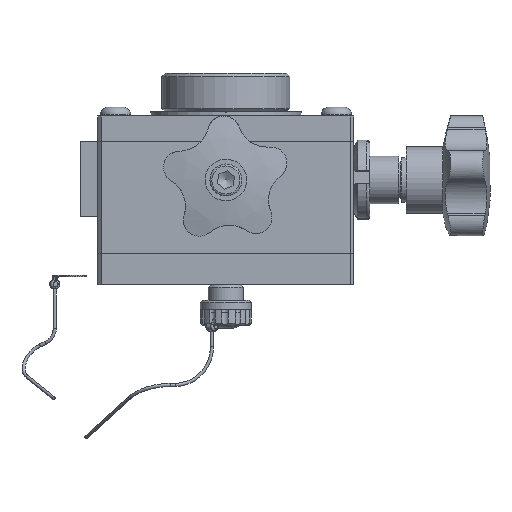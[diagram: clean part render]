
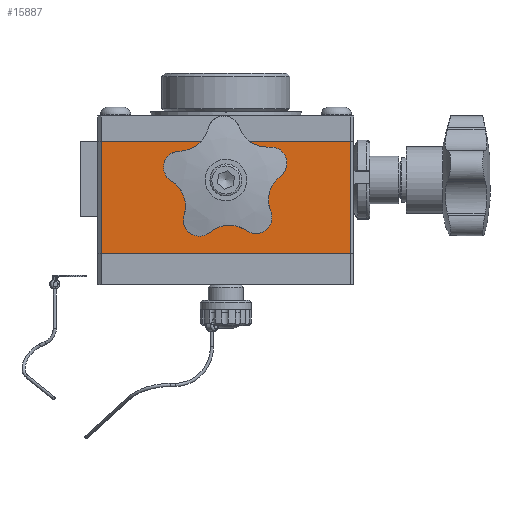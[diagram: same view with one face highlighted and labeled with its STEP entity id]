
A CAD part, left-side view. The second image highlights one B-rep face of the part: STEP entity #15887.
In plain terms, the highlighted planar face has unit normal (-1, 0, 0) as drawn and (0, 0, 1) by its records, which use the part's own axes.
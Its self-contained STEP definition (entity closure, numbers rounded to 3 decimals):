
#1050=FACE_BOUND('',#2770,.T.);
#1234=PLANE('',#17506);
#1838=FACE_OUTER_BOUND('',#2769,.T.);
#2769=EDGE_LOOP('',(#11401,#11402,#11403,#11404));
#2770=EDGE_LOOP('',(#11405));
#3849=LINE('',#23706,#5270);
#3862=LINE('',#23736,#5283);
#3863=LINE('',#23739,#5284);
#3864=LINE('',#23740,#5285);
#5270=VECTOR('',#19243,10.);
#5283=VECTOR('',#19270,10.);
#5284=VECTOR('',#19273,10.);
#5285=VECTOR('',#19274,10.);
#6701=CIRCLE('',#17507,6.959);
#7341=VERTEX_POINT('',#23703);
#7342=VERTEX_POINT('',#23705);
#7352=VERTEX_POINT('',#23734);
#7353=VERTEX_POINT('',#23738);
#7354=VERTEX_POINT('',#23741);
#8951=EDGE_CURVE('',#7342,#7341,#3849,.T.);
#8969=EDGE_CURVE('',#7352,#7341,#3862,.T.);
#8970=EDGE_CURVE('',#7352,#7353,#3863,.T.);
#8971=EDGE_CURVE('',#7342,#7353,#3864,.T.);
#8972=EDGE_CURVE('',#7354,#7354,#6701,.T.);
#11401=ORIENTED_EDGE('',*,*,#8969,.F.);
#11402=ORIENTED_EDGE('',*,*,#8970,.T.);
#11403=ORIENTED_EDGE('',*,*,#8971,.F.);
#11404=ORIENTED_EDGE('',*,*,#8951,.T.);
#11405=ORIENTED_EDGE('',*,*,#8972,.T.);
#15887=ADVANCED_FACE('',(#1838,#1050),#1234,.T.);
#17506=AXIS2_PLACEMENT_3D('',#23737,#19271,#19272);
#17507=AXIS2_PLACEMENT_3D('',#23742,#19275,#19276);
#19243=DIRECTION('',(-1.,0.,0.));
#19270=DIRECTION('',(0.,1.,0.));
#19271=DIRECTION('center_axis',(0.,0.,
1.));
#19272=DIRECTION('ref_axis',(1.,0.,0.));
#19273=DIRECTION('',(1.,0.,0.));
#19274=DIRECTION('',(0.,-1.,0.));
#19275=DIRECTION('center_axis',(0.,0.,
-1.));
#19276=DIRECTION('ref_axis',(-1.,0.,0.));
#23703=CARTESIAN_POINT('',(-39.,17.5,90.));
#23705=CARTESIAN_POINT('',(39.,17.5,90.));
#23706=CARTESIAN_POINT('',(-40.,17.5,90.));
#23734=CARTESIAN_POINT('',(-39.,-17.5,90.));
#23736=CARTESIAN_POINT('',(-39.,8.75,90.));
#23737=CARTESIAN_POINT('Origin',(0.,0.,
90.));
#23738=CARTESIAN_POINT('',(39.,-17.5,90.));
#23739=CARTESIAN_POINT('',(40.,-17.5,90.));
#23740=CARTESIAN_POINT('',(39.,-8.75,90.));
#23741=CARTESIAN_POINT('',(6.959,5.5,90.));
#23742=CARTESIAN_POINT('Origin',(0.,5.5,
90.));
